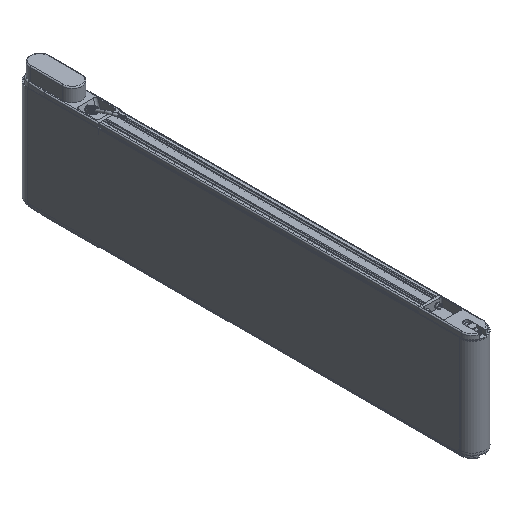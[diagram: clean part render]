
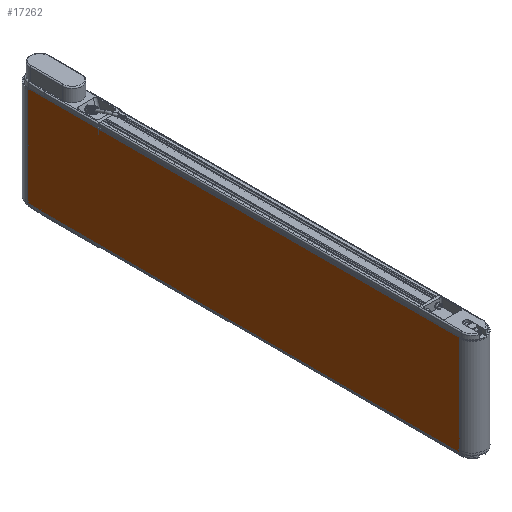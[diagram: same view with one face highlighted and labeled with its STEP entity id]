
A CAD part, isometric view. The second image highlights one B-rep face of the part: STEP entity #17262.
In plain terms, the highlighted planar face has unit normal (-1, 0, 0).
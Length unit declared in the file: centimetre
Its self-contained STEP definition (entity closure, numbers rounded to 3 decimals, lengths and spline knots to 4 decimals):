
#473=PLANE('',#18542);
#1353=FACE_OUTER_BOUND('',#2322,.T.);
#2322=EDGE_LOOP('',(#12303,#12304,#12305,#12306));
#4293=LINE('',#26681,#5642);
#4310=LINE('',#26718,#5659);
#4311=LINE('',#26721,#5660);
#4312=LINE('',#26722,#5661);
#5642=VECTOR('',#21236,1.);
#5659=VECTOR('',#21261,1.);
#5660=VECTOR('',#21264,1.);
#5661=VECTOR('',#21265,1.);
#7167=VERTEX_POINT('',#26675);
#7169=VERTEX_POINT('',#26679);
#7185=VERTEX_POINT('',#26716);
#7186=VERTEX_POINT('',#26720);
#9087=EDGE_CURVE('',#7167,#7169,#4293,.T.);
#9106=EDGE_CURVE('',#7169,#7185,#4310,.T.);
#9107=EDGE_CURVE('',#7185,#7186,#4311,.T.);
#9108=EDGE_CURVE('',#7167,#7186,#4312,.T.);
#12303=ORIENTED_EDGE('',*,*,#9087,.T.);
#12304=ORIENTED_EDGE('',*,*,#9106,.T.);
#12305=ORIENTED_EDGE('',*,*,#9107,.T.);
#12306=ORIENTED_EDGE('',*,*,#9108,.F.);
#17262=ADVANCED_FACE('',(#1353),#473,.T.);
#18542=AXIS2_PLACEMENT_3D('',#26719,#21262,#21263);
#21236=DIRECTION('',(0.,-1.,0.));
#21261=DIRECTION('',(0.,0.,1.));
#21262=DIRECTION('center_axis',(-1.,0.,0.));
#21263=DIRECTION('ref_axis',(0.,0.,
1.));
#21264=DIRECTION('',(0.,1.,0.));
#21265=DIRECTION('',(0.,0.,1.));
#26675=CARTESIAN_POINT('',(-2.33,13.,-9.25));
#26679=CARTESIAN_POINT('',(-2.33,-67.,-9.25));
#26681=CARTESIAN_POINT('',(-2.33,13.,-9.25));
#26716=CARTESIAN_POINT('',(-2.33,-67.,9.25));
#26718=CARTESIAN_POINT('',(-2.33,-67.,0.));
#26719=CARTESIAN_POINT('Origin',(-2.33,13.,0.));
#26720=CARTESIAN_POINT('',(-2.33,13.,9.25));
#26721=CARTESIAN_POINT('',(-2.33,13.,9.25));
#26722=CARTESIAN_POINT('',(-2.33,13.,0.));
